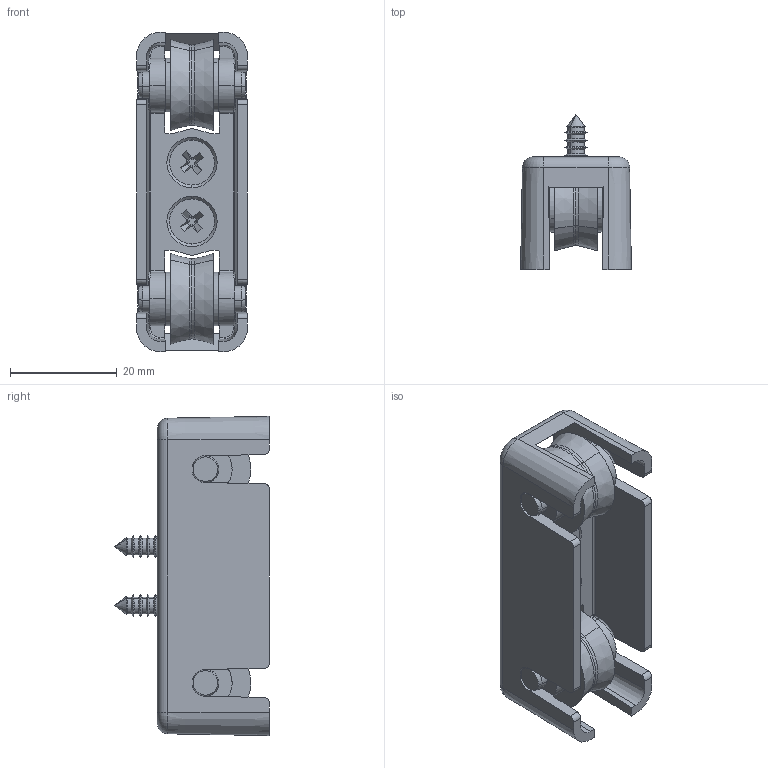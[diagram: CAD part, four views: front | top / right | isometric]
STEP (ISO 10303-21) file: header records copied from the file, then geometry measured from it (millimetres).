
FILE_DESCRIPTION (( 'STEP AP203' ), '1' );
FILE_NAME ('013.100.010.STEP', '2020-10-21T12:20:44', ( '' ), ( '' ), 'SwSTEP 2.0', 'SolidWorks 2018', '' );
FILE_SCHEMA (( 'CONFIG_CONTROL_DESIGN' ));
Length unit declared in the file: millimetre
Products named in the file (5): 013.100.010; VITE ISO7050 4.2x16_Tapping screw DIN 7982-ST4.2x16-C-H-S; Parallel Pin ISO 2338 - 5 h6 x 20 - St_Parallel Pin ISO 2338 - 5 h6 x 20 - St; 013.100.014; 013.100.010A
Assembly tree (7 placements, depth 2):
  013.100.010
    013.100.010A
    VITE ISO7050 4.2x16_Tapping screw DIN 7982-ST4.2x16-C-H-S  x2
    013.100.014  x2
    Parallel Pin ISO 2338 - 5 h6 x 20 - St_Parallel Pin ISO 2338 - 5 h6 x 20 - St  x2
Bounding box: 20.73 x 29 x 59.73 mm (x, y, z)
Volume: 13010.8 mm3; surface area: 10554.7 mm2
Topology: 7 solids, 7 shells, 435 faces, 1060 edges, 629 vertices
Faces by surface type: cylinder 139, cone 118, plane 118, bspline 40, torus 16, sphere 4
Entity records: 10896 total; most frequent: CARTESIAN_POINT 2844, ORIENTED_EDGE 1684, DIRECTION 1469, EDGE_CURVE 842, AXIS2_PLACEMENT_3D 515, VERTEX_POINT 508, VECTOR 439, LINE 439
